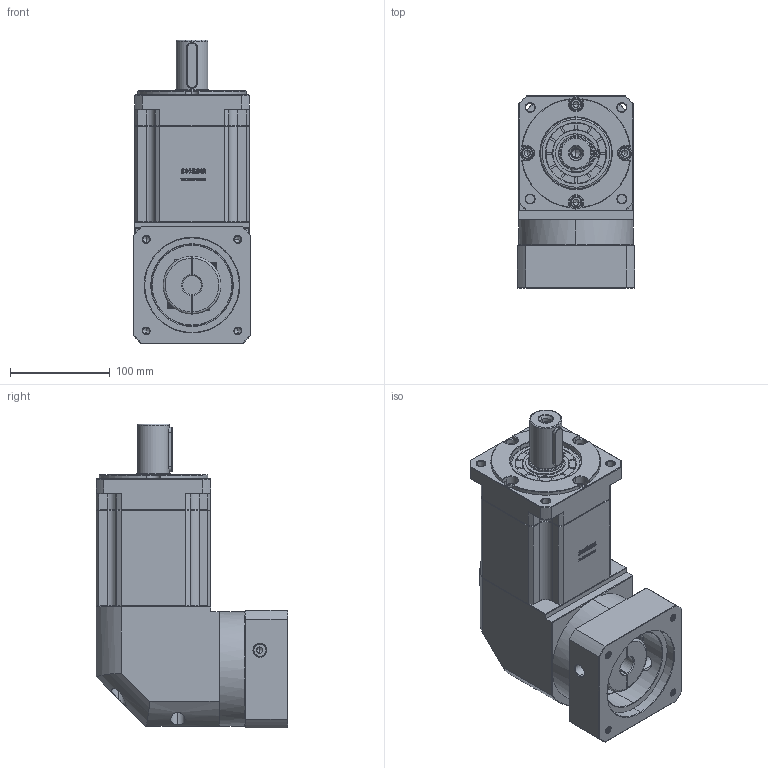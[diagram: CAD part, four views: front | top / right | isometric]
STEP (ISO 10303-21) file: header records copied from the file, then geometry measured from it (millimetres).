
FILE_DESCRIPTION (( 'STEP AP214' ), '1' );
FILE_NAME ('ZBR115A-D32-L3-19-95-130-M8.step', '2023-03-03T05:03:31', ( '' ), ( 'Microsoft' ), 'SwSTEP 2.0', 'SolidWorks 2016', '' );
FILE_SCHEMA (( 'AUTOMOTIVE_DESIGN' ));
Length unit declared in the file: millimetre
Products named in the file (1): ZBR115A-D32-L3-19-95-130-M8
Bounding box: 118 x 192.4 x 305 mm (x, y, z)
Volume: 3636447.2 mm3; surface area: 272220.1 mm2
Topology: 6 solids, 6 shells, 2981 faces, 7920 edges, 5085 vertices
Faces by surface type: plane 1559, bspline 606, cylinder 439, cone 369, torus 8
Entity records: 162069 total; most frequent: CARTESIAN_POINT 60059, ORIENTED_EDGE 15780, DIRECTION 11950, EDGE_CURVE 7890, LINE 5306, VECTOR 5306, VERTEX_POINT 5085, AXIS2_PLACEMENT_3D 3322
